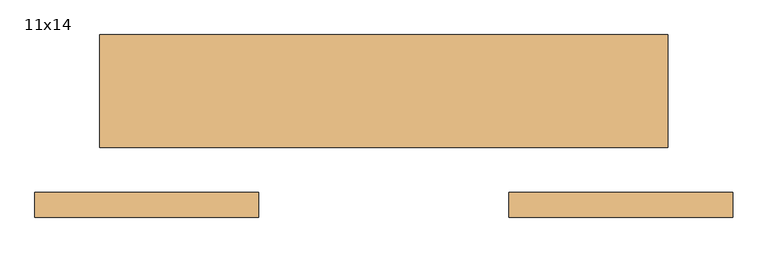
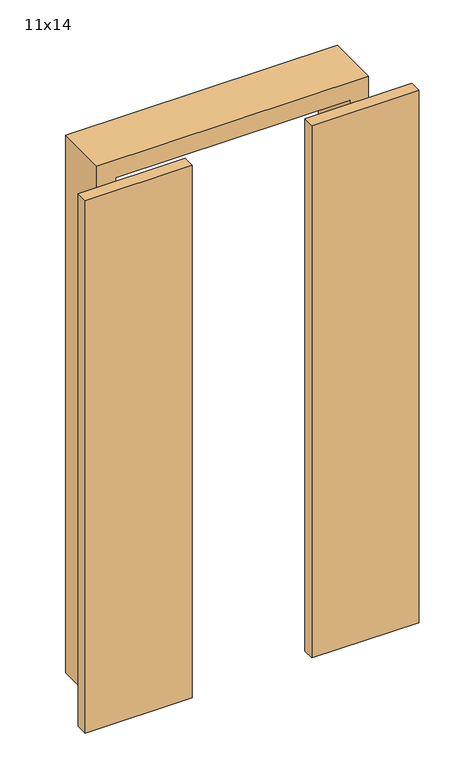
"""IFC4 building model written with IfcOpenShell, lengths in millimetres: door geometry, Hiss : 11x14."""

from ifc_helpers import new_model, si_unit, frame, origin, origin_with_axes, place, context, project, spatial, polyline, outline, extrude, source, transform, mapped, element, save


def door_11x14_cbc0e79b(model_context):
    return source(origin(), model_context, "Body", "SweptSolid", [
        extrude(outline(polyline([(-134.4036877, -225.0), (-531.9036877, -225.0), (-531.9036877, -180.0), (-134.4036877, -180.0), (-134.4036877, -225.0)])), origin_with_axes(), (0.0, 0.0, 1.0), 2090.0),
        extrude(outline(polyline([(310.5963123, -225.0), (310.5963123, -180.0), (708.0963123, -180.0), (708.0963123, -225.0), (310.5963123, -225.0)])), origin_with_axes(), (0.0, 0.0, 1.0), 2090.0),
        extrude(outline(polyline([(2110.0, -416.9036877), (0.0, -416.9036877), (0.0, -346.9036877), (2040.0, -346.9036877), (2040.0, 523.0963123), (0.0, 523.0963123), (0.0, 593.0963123), (2110.0, 593.0963123), (2110.0, -416.9036877)])), frame((0.0, -100.0, 0.0), z_axis=(0.0, 1.0, 0.0), x_axis=(0.0, 0.0, 1.0)), (0.0, 0.0, 1.0), 200.0),
    ])


if __name__ == "__main__":
    model = new_model("IFC4")
    model_context = context("Model", 3, world=origin())
    ifc_project = project(units=[si_unit("LENGTHUNIT", "METRE", prefix="MILLI")], contexts=[model_context])
    site = spatial("IfcSite", under=ifc_project)
    building = spatial("IfcBuilding", under=site)
    placement = place(None, origin())
    door_11x14_shape = door_11x14_cbc0e79b(model_context)
    element("IfcDoor", 1, ObjectType="Hiss : 11x14", at=placement, inside=building, context=model_context, shape_type="MappedRepresentation", body=[
        mapped(door_11x14_shape, transform((0.0, 0.0, 0.0), x_axis=(1.0, 0.0, 0.0), y_axis=(0.0, 1.0, 0.0), z_axis=(0.0, 0.0, 1.0))),
    ])
    save(model, "model.ifc")
